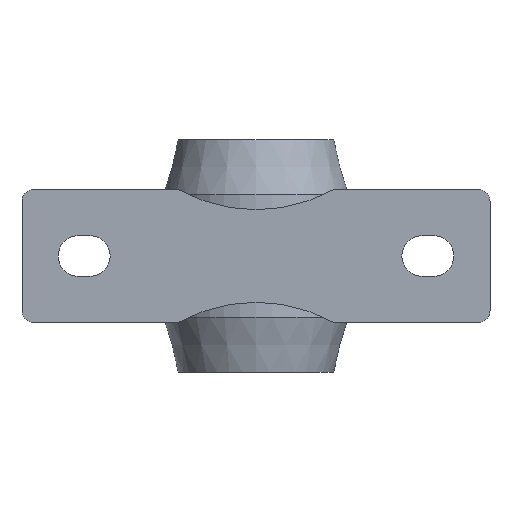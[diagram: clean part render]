
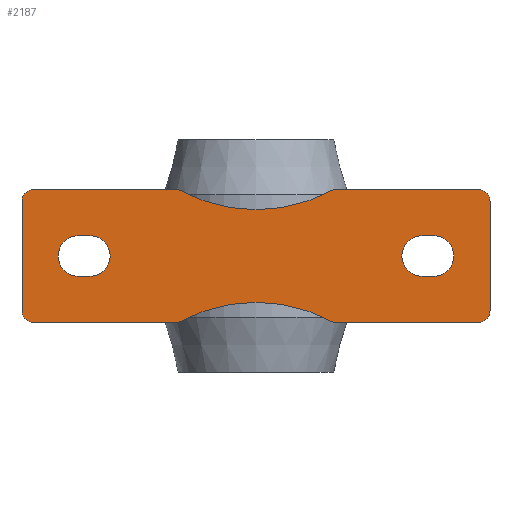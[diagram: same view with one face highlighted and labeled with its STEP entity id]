
A CAD part, front view. The second image highlights one B-rep face of the part: STEP entity #2187.
In plain terms, the highlighted planar face has unit normal (0, -1, 0).
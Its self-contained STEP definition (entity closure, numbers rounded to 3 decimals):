
#102=FACE_BOUND('',#318,.T.);
#103=FACE_BOUND('',#319,.T.);
#128=PLANE('',#2441);
#191=FACE_OUTER_BOUND('',#317,.T.);
#317=EDGE_LOOP('',(#1423,#1424,#1425,#1426,#1427,#1428,#1429,#1430,#1431,
#1432,#1433,#1434));
#318=EDGE_LOOP('',(#1435,#1436,#1437,#1438));
#319=EDGE_LOOP('',(#1439,#1440,#1441,#1442));
#503=LINE('',#3403,#636);
#504=LINE('',#3407,#637);
#505=LINE('',#3411,#638);
#506=LINE('',#3415,#639);
#507=LINE('',#3419,#640);
#508=LINE('',#3422,#641);
#509=LINE('',#3427,#642);
#510=LINE('',#3430,#643);
#511=LINE('',#3435,#644);
#512=LINE('',#3438,#645);
#636=VECTOR('',#2712,10.);
#637=VECTOR('',#2715,10.);
#638=VECTOR('',#2718,10.);
#639=VECTOR('',#2721,10.);
#640=VECTOR('',#2724,10.);
#641=VECTOR('',#2727,10.);
#642=VECTOR('',#2730,10.);
#643=VECTOR('',#2733,10.);
#644=VECTOR('',#2736,10.);
#645=VECTOR('',#2739,10.);
#770=CIRCLE('',#2442,4.);
#771=CIRCLE('',#2443,55.);
#772=CIRCLE('',#2444,4.);
#773=CIRCLE('',#2445,4.);
#774=CIRCLE('',#2446,55.);
#775=CIRCLE('',#2447,4.);
#776=CIRCLE('',#2448,7.);
#777=CIRCLE('',#2449,7.);
#778=CIRCLE('',#2450,7.);
#779=CIRCLE('',#2451,7.);
#891=VERTEX_POINT('',#3399);
#892=VERTEX_POINT('',#3400);
#893=VERTEX_POINT('',#3402);
#894=VERTEX_POINT('',#3404);
#895=VERTEX_POINT('',#3406);
#896=VERTEX_POINT('',#3408);
#897=VERTEX_POINT('',#3410);
#898=VERTEX_POINT('',#3412);
#899=VERTEX_POINT('',#3414);
#900=VERTEX_POINT('',#3416);
#901=VERTEX_POINT('',#3418);
#902=VERTEX_POINT('',#3420);
#903=VERTEX_POINT('',#3423);
#904=VERTEX_POINT('',#3424);
#905=VERTEX_POINT('',#3426);
#906=VERTEX_POINT('',#3428);
#907=VERTEX_POINT('',#3431);
#908=VERTEX_POINT('',#3432);
#909=VERTEX_POINT('',#3434);
#910=VERTEX_POINT('',#3436);
#1106=EDGE_CURVE('',#891,#892,#770,.T.);
#1107=EDGE_CURVE('',#891,#893,#503,.T.);
#1108=EDGE_CURVE('',#893,#894,#771,.T.);
#1109=EDGE_CURVE('',#894,#895,#504,.T.);
#1110=EDGE_CURVE('',#896,#895,#772,.T.);
#1111=EDGE_CURVE('',#896,#897,#505,.T.);
#1112=EDGE_CURVE('',#898,#897,#773,.T.);
#1113=EDGE_CURVE('',#899,#898,#506,.T.);
#1114=EDGE_CURVE('',#899,#900,#774,.T.);
#1115=EDGE_CURVE('',#901,#900,#507,.T.);
#1116=EDGE_CURVE('',#902,#901,#775,.T.);
#1117=EDGE_CURVE('',#902,#892,#508,.T.);
#1118=EDGE_CURVE('',#903,#904,#776,.T.);
#1119=EDGE_CURVE('',#904,#905,#509,.T.);
#1120=EDGE_CURVE('',#905,#906,#777,.T.);
#1121=EDGE_CURVE('',#906,#903,#510,.T.);
#1122=EDGE_CURVE('',#907,#908,#778,.T.);
#1123=EDGE_CURVE('',#908,#909,#511,.T.);
#1124=EDGE_CURVE('',#909,#910,#779,.T.);
#1125=EDGE_CURVE('',#910,#907,#512,.T.);
#1423=ORIENTED_EDGE('',*,*,#1106,.F.);
#1424=ORIENTED_EDGE('',*,*,#1107,.T.);
#1425=ORIENTED_EDGE('',*,*,#1108,.T.);
#1426=ORIENTED_EDGE('',*,*,#1109,.T.);
#1427=ORIENTED_EDGE('',*,*,#1110,.F.);
#1428=ORIENTED_EDGE('',*,*,#1111,.T.);
#1429=ORIENTED_EDGE('',*,*,#1112,.F.);
#1430=ORIENTED_EDGE('',*,*,#1113,.F.);
#1431=ORIENTED_EDGE('',*,*,#1114,.T.);
#1432=ORIENTED_EDGE('',*,*,#1115,.F.);
#1433=ORIENTED_EDGE('',*,*,#1116,.F.);
#1434=ORIENTED_EDGE('',*,*,#1117,.T.);
#1435=ORIENTED_EDGE('',*,*,#1118,.T.);
#1436=ORIENTED_EDGE('',*,*,#1119,.T.);
#1437=ORIENTED_EDGE('',*,*,#1120,.T.);
#1438=ORIENTED_EDGE('',*,*,#1121,.T.);
#1439=ORIENTED_EDGE('',*,*,#1122,.T.);
#1440=ORIENTED_EDGE('',*,*,#1123,.T.);
#1441=ORIENTED_EDGE('',*,*,#1124,.T.);
#1442=ORIENTED_EDGE('',*,*,#1125,.T.);
#2187=ADVANCED_FACE('',(#191,#102,#103),#128,.F.);
#2441=AXIS2_PLACEMENT_3D('',#3398,#2708,#2709);
#2442=AXIS2_PLACEMENT_3D('',#3401,#2710,#2711);
#2443=AXIS2_PLACEMENT_3D('',#3405,#2713,#2714);
#2444=AXIS2_PLACEMENT_3D('',#3409,#2716,#2717);
#2445=AXIS2_PLACEMENT_3D('',#3413,#2719,#2720);
#2446=AXIS2_PLACEMENT_3D('',#3417,#2722,#2723);
#2447=AXIS2_PLACEMENT_3D('',#3421,#2725,#2726);
#2448=AXIS2_PLACEMENT_3D('',#3425,#2728,#2729);
#2449=AXIS2_PLACEMENT_3D('',#3429,#2731,#2732);
#2450=AXIS2_PLACEMENT_3D('',#3433,#2734,#2735);
#2451=AXIS2_PLACEMENT_3D('',#3437,#2737,#2738);
#2708=DIRECTION('center_axis',(0.,1.,0.));
#2709=DIRECTION('ref_axis',(0.,0.,1.));
#2710=DIRECTION('center_axis',(0.,1.,0.));
#2711=DIRECTION('ref_axis',(-0.707,0.,-0.707));
#2712=DIRECTION('',(1.,0.,0.));
#2713=DIRECTION('center_axis',(0.,1.,0.));
#2714=DIRECTION('ref_axis',(1.,0.,0.));
#2715=DIRECTION('',(1.,0.,0.));
#2716=DIRECTION('center_axis',(0.,1.,0.));
#2717=DIRECTION('ref_axis',(0.707,0.,-0.707));
#2718=DIRECTION('',(0.,0.,1.));
#2719=DIRECTION('center_axis',(0.,1.,0.));
#2720=DIRECTION('ref_axis',(0.707,0.,0.707));
#2721=DIRECTION('',(1.,0.,0.));
#2722=DIRECTION('center_axis',(0.,1.,0.));
#2723=DIRECTION('ref_axis',(1.,0.,0.));
#2724=DIRECTION('',(1.,0.,0.));
#2725=DIRECTION('center_axis',(0.,1.,0.));
#2726=DIRECTION('ref_axis',(-0.707,0.,0.707));
#2727=DIRECTION('',(0.,0.,-1.));
#2728=DIRECTION('center_axis',(0.,1.,0.));
#2729=DIRECTION('ref_axis',(0.,0.,1.));
#2730=DIRECTION('',(1.,0.,0.));
#2731=DIRECTION('center_axis',(0.,1.,0.));
#2732=DIRECTION('ref_axis',(0.,0.,-1.));
#2733=DIRECTION('',(-1.,0.,0.));
#2734=DIRECTION('center_axis',(0.,1.,0.));
#2735=DIRECTION('ref_axis',(0.,0.,1.));
#2736=DIRECTION('',(-1.,0.,0.));
#2737=DIRECTION('center_axis',(0.,1.,0.));
#2738=DIRECTION('ref_axis',(0.,0.,-1.));
#2739=DIRECTION('',(1.,0.,0.));
#3398=CARTESIAN_POINT('Origin',(-40.1,-42.9,0.));
#3399=CARTESIAN_POINT('',(-77.,-42.9,-23.));
#3400=CARTESIAN_POINT('',(-81.,-42.9,-19.));
#3401=CARTESIAN_POINT('Origin',(-77.,-42.9,-19.));
#3402=CARTESIAN_POINT('',(-26.851,-42.9,-23.));
#3403=CARTESIAN_POINT('',(-81.,-42.9,-23.));
#3404=CARTESIAN_POINT('',(26.851,-42.9,-23.));
#3405=CARTESIAN_POINT('Origin',(0.,-42.9,-71.));
#3406=CARTESIAN_POINT('',(77.,-42.9,-23.));
#3407=CARTESIAN_POINT('',(-81.,-42.9,-23.));
#3408=CARTESIAN_POINT('',(81.,-42.9,-19.));
#3409=CARTESIAN_POINT('Origin',(77.,-42.9,-19.));
#3410=CARTESIAN_POINT('',(81.,-42.9,19.));
#3411=CARTESIAN_POINT('',(81.,-42.9,0.));
#3412=CARTESIAN_POINT('',(77.,-42.9,23.));
#3413=CARTESIAN_POINT('Origin',(77.,-42.9,19.));
#3414=CARTESIAN_POINT('',(26.851,-42.9,23.));
#3415=CARTESIAN_POINT('',(-10.,-42.9,23.));
#3416=CARTESIAN_POINT('',(-26.851,-42.9,23.));
#3417=CARTESIAN_POINT('Origin',(0.,-42.9,71.));
#3418=CARTESIAN_POINT('',(-77.,-42.9,23.));
#3419=CARTESIAN_POINT('',(-10.,-42.9,23.));
#3420=CARTESIAN_POINT('',(-81.,-42.9,19.));
#3421=CARTESIAN_POINT('Origin',(-77.,-42.9,19.));
#3422=CARTESIAN_POINT('',(-81.,-42.9,0.));
#3423=CARTESIAN_POINT('',(57.5,-42.9,-7.));
#3424=CARTESIAN_POINT('',(57.5,-42.9,7.));
#3425=CARTESIAN_POINT('Origin',(57.5,-42.9,0.));
#3426=CARTESIAN_POINT('',(61.5,-42.9,7.));
#3427=CARTESIAN_POINT('',(10.7,-42.9,7.));
#3428=CARTESIAN_POINT('',(61.5,-42.9,-7.));
#3429=CARTESIAN_POINT('Origin',(61.5,-42.9,0.));
#3430=CARTESIAN_POINT('',(8.7,-42.9,-7.));
#3431=CARTESIAN_POINT('',(-57.5,-42.9,7.));
#3432=CARTESIAN_POINT('',(-57.5,-42.9,-7.));
#3433=CARTESIAN_POINT('Origin',(-57.5,-42.9,0.));
#3434=CARTESIAN_POINT('',(-61.5,-42.9,-7.));
#3435=CARTESIAN_POINT('',(-50.8,-42.9,-7.));
#3436=CARTESIAN_POINT('',(-61.5,-42.9,7.));
#3437=CARTESIAN_POINT('Origin',(-61.5,-42.9,0.));
#3438=CARTESIAN_POINT('',(-48.8,-42.9,7.));
